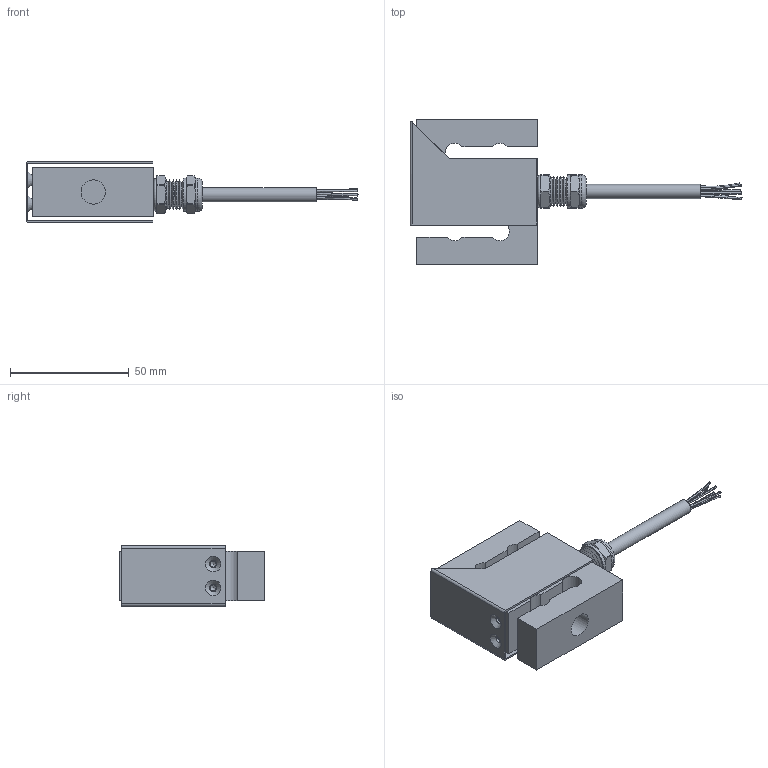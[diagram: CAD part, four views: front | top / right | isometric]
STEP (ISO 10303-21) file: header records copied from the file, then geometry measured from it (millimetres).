
FILE_DESCRIPTION(/* description */ (''),/* implementation_level */ '2;1');
FILE_NAME(/* name */ 'F:/Flintec Files/Working/UXT potential cad error/Final/0084512 UXT 250kg & 500kg.step',/* time_stamp */ '2021-02-04T11:44:50+00:00',/* author */ (''),/* organization */ (''),/* preprocessor_version */ 'ST-DEVELOPER v18.1',/* originating_system */ 'Autodesk Translation Framework v9.7.1.1290',/* authorisation */ '');
FILE_SCHEMA (('AUTOMOTIVE_DESIGN { 1 0 10303 214 3 1 1 }'));
Length unit declared in the file: millimetre
Products named in the file (5): 0084512; 0042350; 0080118; 0084559; Component7
Assembly tree (4 placements, depth 2):
  0084512
    0042350
    0080118
    0084559
    Component7
Bounding box: 139.6 x 61 x 25.52 mm (x, y, z)
Volume: 60838.3 mm3; surface area: 26913.3 mm2
Topology: 5 solids, 5 shells, 581 faces, 1299 edges, 854 vertices
Faces by surface type: plane 250, bspline 146, cylinder 133, cone 49, torus 3
Full cylindrical faces by diameter (mm): 0.5 x99, 2.5 x2, 3.1 x2, 6 x1, 7.62 x2, 10.2 x2, 11.316 x2, 12.695 x1, 13.97 x2
Entity records: 21796 total; most frequent: CARTESIAN_POINT 9387, ORIENTED_EDGE 2594, DIRECTION 2244, EDGE_CURVE 1297, VERTEX_POINT 854, AXIS2_PLACEMENT_3D 813, EDGE_LOOP 721, LINE 618
